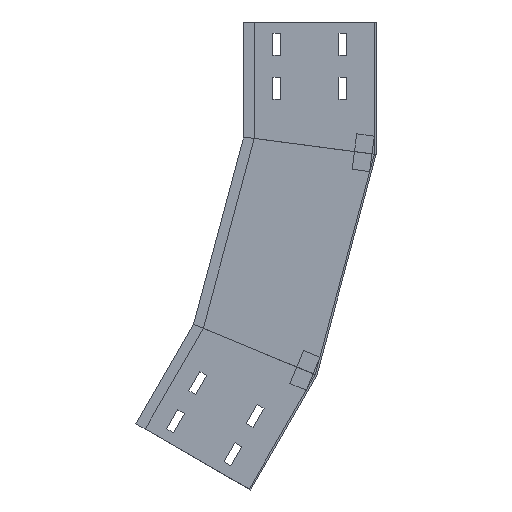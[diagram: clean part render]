
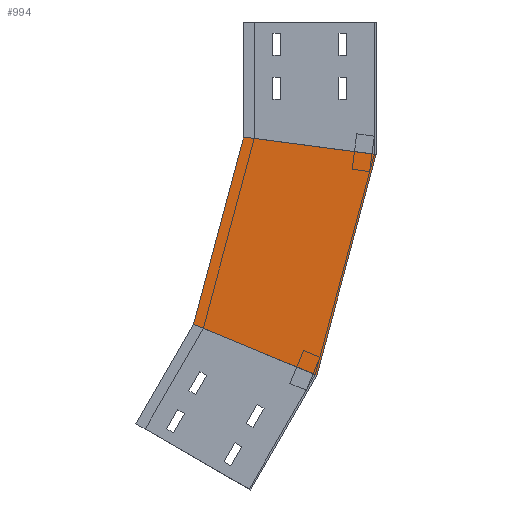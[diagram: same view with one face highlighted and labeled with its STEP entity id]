
A CAD part, left-side view. The second image highlights one B-rep face of the part: STEP entity #994.
In plain terms, the highlighted planar face has unit normal (-1, 0, 0) as drawn and (1, 0, 0) by its records, which use the part's own axes.
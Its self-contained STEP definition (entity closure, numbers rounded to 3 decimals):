
#110 = ORIENTED_EDGE ( 'NONE', *, *, #1409, .T. ) ;
#159 = AXIS2_PLACEMENT_3D ( 'NONE', #1853, #1704, #761 ) ;
#166 = EDGE_LOOP ( 'NONE', ( #1717, #110, #183, #332 ) ) ;
#183 = ORIENTED_EDGE ( 'NONE', *, *, #1788, .T. ) ;
#233 = VERTEX_POINT ( 'NONE', #1749 ) ;
#305 = VERTEX_POINT ( 'NONE', #1819 ) ;
#332 = ORIENTED_EDGE ( 'NONE', *, *, #1647, .F. ) ;
#343 = VECTOR ( 'NONE', #432, 1000. ) ;
#410 = CARTESIAN_POINT ( 'NONE',  ( 0., 19.411, -147.444 ) ) ;
#432 = DIRECTION ( 'NONE',  ( 0., 0.259, -0.966 ) ) ;
#494 = LINE ( 'NONE', #1133, #1135 ) ;
#593 = FACE_OUTER_BOUND ( 'NONE', #166, .T. ) ;
#719 = CARTESIAN_POINT ( 'NONE',  ( 0., 144.889, -111.177 ) ) ;
#761 = DIRECTION ( 'NONE',  ( 0., 0., 1. ) ) ;
#884 = DIRECTION ( 'NONE',  ( 0., -0.991, -0.131 ) ) ;
#917 = LINE ( 'NONE', #719, #343 ) ;
#961 = VERTEX_POINT ( 'NONE', #1716 ) ;
#993 = CARTESIAN_POINT ( 'NONE',  ( 0., 0., -150. ) ) ;
#994 = ADVANCED_FACE ( 'NONE', ( #593 ), #1232, .F. ) ;
#1056 = LINE ( 'NONE', #410, #1329 ) ;
#1122 = VERTEX_POINT ( 'NONE', #1423 ) ;
#1133 = CARTESIAN_POINT ( 'NONE',  ( 0., 98.267, -387.238 ) ) ;
#1135 = VECTOR ( 'NONE', #1761, 1000. ) ;
#1232 = PLANE ( 'NONE',  #159 ) ;
#1329 = VECTOR ( 'NONE', #884, 1000. ) ;
#1356 = EDGE_CURVE ( 'NONE', #961, #305, #917, .T. ) ;
#1409 = EDGE_CURVE ( 'NONE', #961, #1122, #1056, .T. ) ;
#1423 = CARTESIAN_POINT ( 'NONE',  ( 0., 0., -150. ) ) ;
#1647 = EDGE_CURVE ( 'NONE', #305, #233, #494, .T. ) ;
#1652 = LINE ( 'NONE', #993, #1986 ) ;
#1704 = DIRECTION ( 'NONE',  ( -1., 0., 0. ) ) ;
#1716 = CARTESIAN_POINT ( 'NONE',  ( 0., 150., -130.252 ) ) ;
#1717 = ORIENTED_EDGE ( 'NONE', *, *, #1356, .F. ) ;
#1749 = CARTESIAN_POINT ( 'NONE',  ( 0., 67.034, -400.175 ) ) ;
#1761 = DIRECTION ( 'NONE',  ( 0., -0.924, -0.383 ) ) ;
#1788 = EDGE_CURVE ( 'NONE', #1122, #233, #1652, .T. ) ;
#1819 = CARTESIAN_POINT ( 'NONE',  ( 0., 206.812, -342.277 ) ) ;
#1853 = CARTESIAN_POINT ( 'NONE',  ( 0., 0., -150. ) ) ;
#1930 = DIRECTION ( 'NONE',  ( 0., 0.259, -0.966 ) ) ;
#1986 = VECTOR ( 'NONE', #1930, 1000. ) ;
